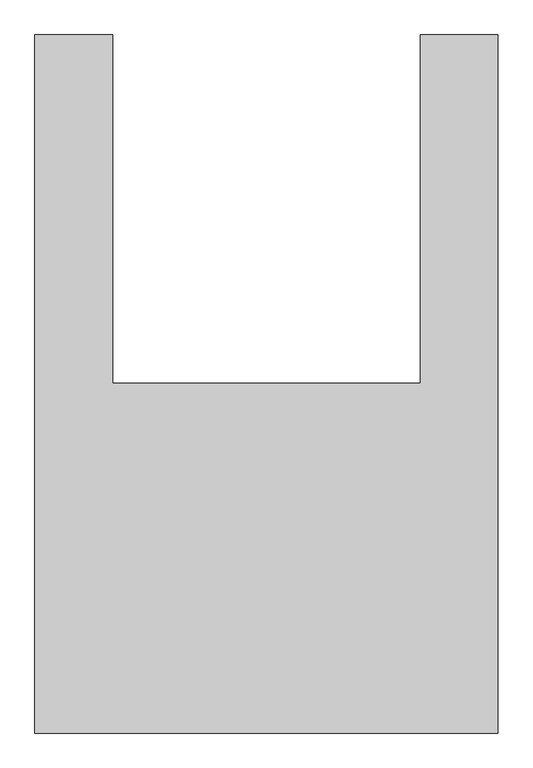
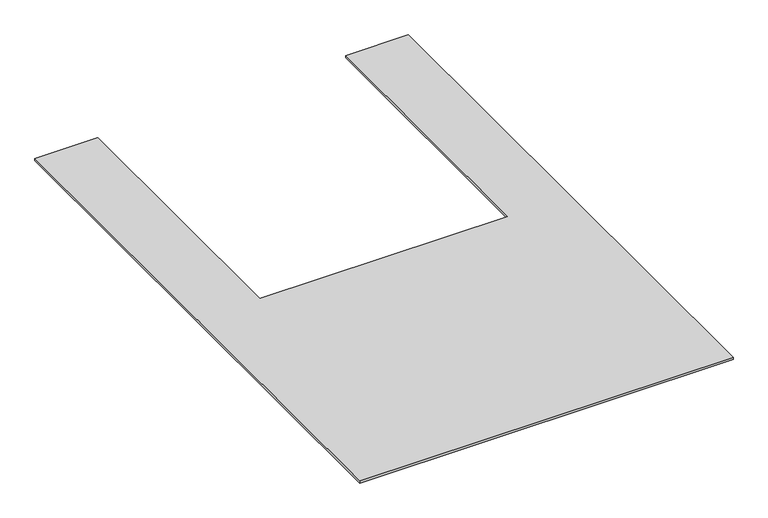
"""IFC4 building model written with IfcOpenShell, lengths in millimetres: proxy geometry, Фиброцементная плита LATONIT с антивандальным покрытием_1 прямоугольное отверстие : 10 мм."""

from ifc_helpers import new_model, si_unit, frame, origin, place, context, project, spatial, polyline, outline, extrude, source, transform, mapped, element, save


def generic_models_8ac005f5(model_context):
    return source(origin(), model_context, "Body", "SweptSolid", [
        extrude(outline(polyline([(1500.0, 2260.0), (1500.0, 0.0), (0.0, 0.0), (0.0, 2260.0), (251.5, 2260.0), (251.5, 1132.0), (1248.5, 1132.0), (1248.5, 2260.0), (1500.0, 2260.0)])), frame((0.0, 0.0, 240.0), z_axis=(0.0, 0.0, 1.0), x_axis=(1.0, 0.0, 0.0)), (0.0, 0.0, 1.0), 10.0),
    ])


if __name__ == "__main__":
    model = new_model("IFC4")
    model_context = context("Model", 3, world=origin())
    ifc_project = project(units=[si_unit("LENGTHUNIT", "METRE", prefix="MILLI")], contexts=[model_context])
    site = spatial("IfcSite", under=ifc_project)
    building = spatial("IfcBuilding", under=site)
    placement = place(None, origin())
    generic_models_shape = generic_models_8ac005f5(model_context)
    element("IfcBuildingElementProxy", 1, Name="Фиброцементная плита LATONIT с антивандальным покрытием_1 прямоугольное отверстие : 10 мм", ObjectType="Фиброцементная плита LATONIT с антивандальным покрытием_1 прямоугольное отверстие : 10 мм", at=placement, inside=building, context=model_context, shape_type="MappedRepresentation", body=[
        mapped(generic_models_shape, transform((0.0, 0.0, 0.0), x_axis=(1.0, 0.0, 0.0), y_axis=(0.0, 1.0, 0.0), z_axis=(0.0, 0.0, 1.0))),
    ])
    save(model, "model.ifc")
